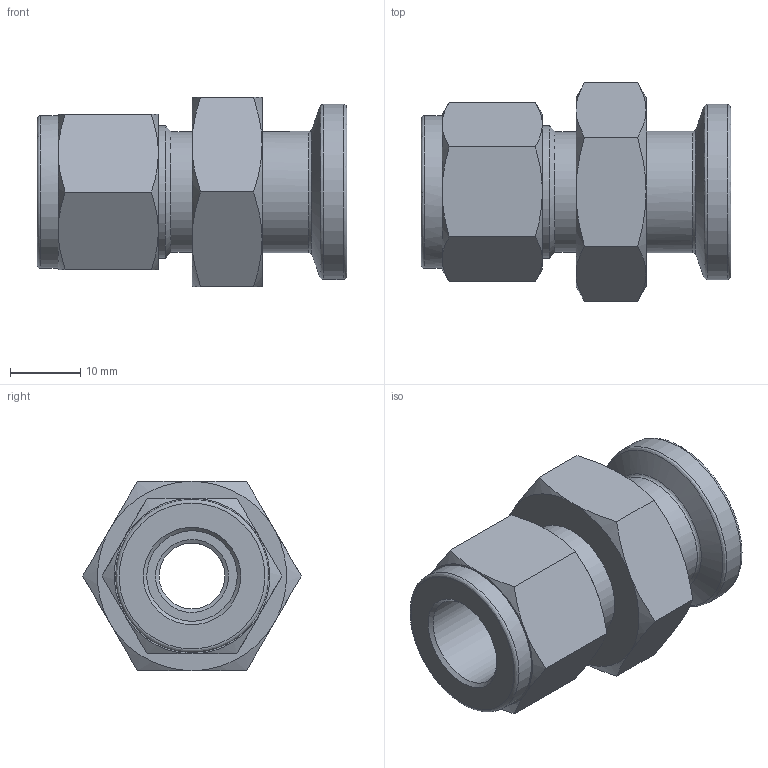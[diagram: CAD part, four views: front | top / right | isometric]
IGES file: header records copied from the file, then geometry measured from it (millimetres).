
Global section: file name: SSFA-8-8SA; native system: Autodesk Inventor 2016; preprocessor: unknown; author: DESIGNPC2; date: 20160312.144943; units: millimetre
Bounding box: 44.2 x 31.18 x 27 mm (x, y, z)
Volume: 13713.9 mm3; surface area: 6712.2 mm2
Topology: 1 solids, 1 shells, 67 faces, 175 edges, 117 vertices
Faces by surface type: bspline 67
